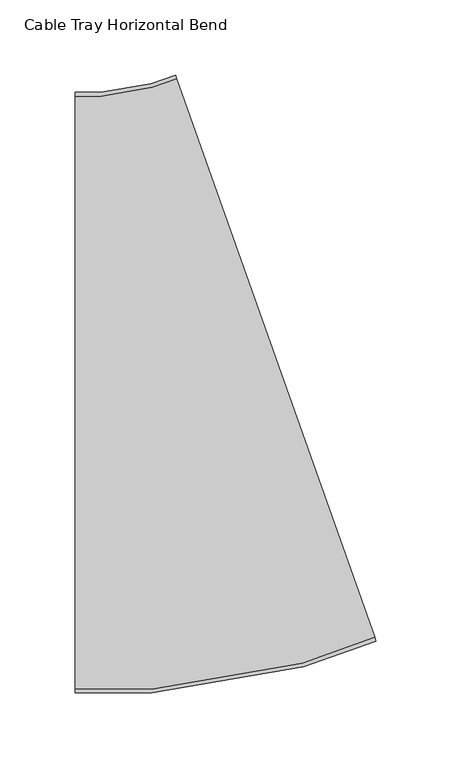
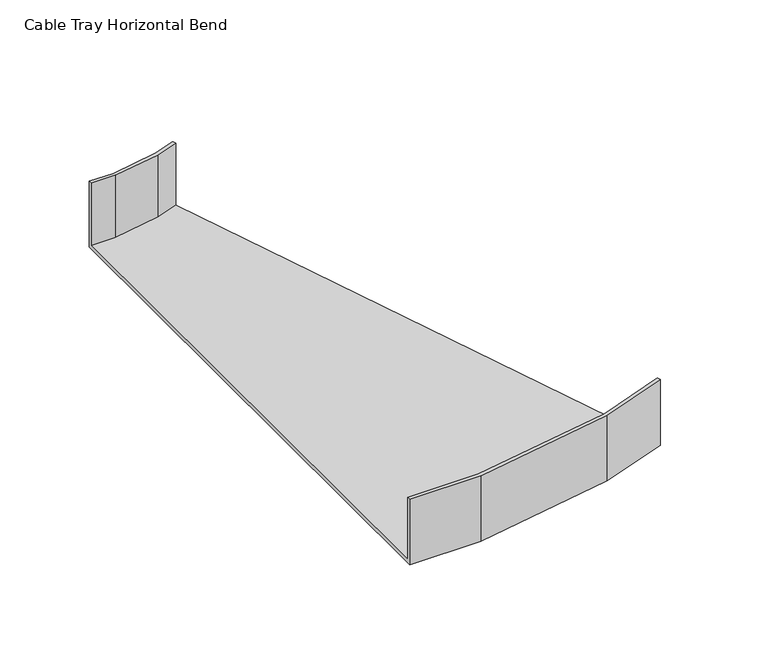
"""IFC4 building model written with IfcOpenShell, lengths in millimetres: cable carrier fitting geometry, Cable Tray Horizontal Bend : ELEC_SUB_CT_N2402."""

import ifcopenshell
import ifcopenshell.guid

model = None  # the IFC model being written
_history = None  # IfcOwnerHistory: only IFC2X3 demands one
_inside = {}  # id of a spatial element -> (the spatial element, [elements in it])
_under = {}  # id of a project, library or spatial element -> (it, [spatial elements below it])
_declared = {}  # id of a project -> (the project, [libraries it declares])
_typed = {}  # id of a type object -> (the type object, [elements of that type])
_made_of = {}  # id of a material, layer set ... -> (it, [elements and type objects made of it])


def new_model(schema):
    """Start an empty IFC model of exactly this schema.

    Asked for "IFC4X3", IfcOpenShell would pick the latest addendum, in which some entities
    have other attributes; the version numbers below select the first issue.
    IFC2X3 requires an IfcOwnerHistory on every rooted entity: one is made here for all.
    """
    global model, _history
    if schema == "IFC4X3":
        model = ifcopenshell.file(schema_version=(4, 3, 0, 0))
    else:
        model = ifcopenshell.file(schema=schema)
    _inside.clear()
    _under.clear()
    _declared.clear()
    _typed.clear()
    _made_of.clear()
    _history = None
    if model.schema == "IFC2X3":
        org = make("IfcOrganization", Name="unknown")
        user = make(
            "IfcPersonAndOrganization",
            ThePerson=make("IfcPerson", FamilyName="unknown"),
            TheOrganization=org,
        )
        app = make(
            "IfcApplication",
            ApplicationDeveloper=org,
            Version="unknown",
            ApplicationFullName="unknown",
            ApplicationIdentifier="unknown",
        )
        _history = make(
            "IfcOwnerHistory",
            OwningUser=user,
            OwningApplication=app,
            ChangeAction="ADDED",
            CreationDate=0,
        )
    return model


def make(cls, **values):
    """One entity of the class cls with the attributes given. An attribute that is None is left unset."""
    return model.create_entity(
        cls, **{name: value for name, value in values.items() if value is not None}
    )


def rooted(cls, **values):
    """An entity with a GlobalId (a new one), such as an element, a storey or a relation."""
    return make(cls, GlobalId=ifcopenshell.guid.new(), OwnerHistory=_history, **values)


def si_unit(unit_type, name, prefix=None):
    """IfcSIUnit, for example si_unit("LENGTHUNIT", "METRE", prefix="MILLI")."""
    return make("IfcSIUnit", UnitType=unit_type, Prefix=prefix, Name=name)


def assignment(units):
    """IfcUnitAssignment: the units of a project."""
    return None if units is None else make("IfcUnitAssignment", Units=units)


def point(xyz):
    """IfcCartesianPoint."""
    return None if xyz is None else make("IfcCartesianPoint", Coordinates=xyz)


def direction(xyz):
    """IfcDirection."""
    return None if xyz is None else make("IfcDirection", DirectionRatios=xyz)


def frame(location, z_axis=None, x_axis=None):
    """IfcAxis2Placement3D, a coordinate frame: its origin and axes. An axis left out is left unset."""
    return make(
        "IfcAxis2Placement3D",
        Location=point(location),
        Axis=direction(z_axis),
        RefDirection=direction(x_axis),
    )


def origin():
    """The frame at (0, 0, 0) with its axes left unset."""
    return frame((0.0, 0.0, 0.0))


def place(relative_to, where):
    """IfcLocalPlacement: puts the frame where relative to a parent placement (None: the world)."""
    return make(
        "IfcLocalPlacement", PlacementRelTo=relative_to, RelativePlacement=where
    )


def context(
    kind, dimensions, precision=None, world=None, true_north=None, identifier=None
):
    """IfcGeometricRepresentationContext, for example the 3D "Model" context."""
    return make(
        "IfcGeometricRepresentationContext",
        ContextIdentifier=identifier,
        ContextType=kind,
        CoordinateSpaceDimension=dimensions,
        Precision=precision,
        WorldCoordinateSystem=world,
        TrueNorth=true_north,
    )


def project(units=None, contexts=None):
    """IfcProject with its units and contexts."""
    return rooted(
        "IfcProject",
        Name="project",
        RepresentationContexts=contexts,
        UnitsInContext=assignment(units),
    )


def spatial(cls, under=None, at=None, **own):
    """A site, building, storey or space (cls), placed at a placement, below another one or the project."""
    s = rooted(cls, ObjectPlacement=at, **own)
    if under is not None:
        _under.setdefault(under.id(), (under, []))[1].append(s)
    return s


def faces_of(points, faces, orient=None, outer=None):
    """IfcFace entities. A face is a list of loops; a loop is a list of indices into points, from 0.

    orient and outer hold one flag for each loop. By default every Orientation is true, the
    first loop of a face is its IfcFaceOuterBound and the others are IfcFaceBound.
    """
    made = []
    for i, loops in enumerate(faces):
        bounds = []
        for j, loop in enumerate(loops):
            is_outer = j == 0 if outer is None else outer[i][j]
            bounds.append(
                make(
                    "IfcFaceOuterBound" if is_outer else "IfcFaceBound",
                    Bound=make("IfcPolyLoop", Polygon=[points[k] for k in loop]),
                    Orientation=True if orient is None else orient[i][j],
                )
            )
        made.append(make("IfcFace", Bounds=bounds))
    return made


def faceted_brep(points, faces, orient=None, outer=None, voids=None):
    """IfcFacetedBrep: a solid bounded by flat faces; with voids (closed shells), ...WithVoids."""
    shared = [point(p) for p in points]
    hull = make("IfcClosedShell", CfsFaces=faces_of(shared, faces, orient, outer))
    if voids is None:
        return make("IfcFacetedBrep", Outer=hull)
    return make(
        "IfcFacetedBrepWithVoids",
        Outer=hull,
        Voids=[
            make(cls, CfsFaces=faces_of(shared, fs, o, b)) for cls, fs, o, b in voids
        ],
    )


def shape(context_of_items, identifier, shape_type, items):
    """IfcShapeRepresentation: the items that make up one representation, for example the "Body"."""
    return make(
        "IfcShapeRepresentation",
        ContextOfItems=context_of_items,
        RepresentationIdentifier=identifier,
        RepresentationType=shape_type,
        Items=items,
    )


def source(mapping_origin, context_of_items, identifier, shape_type, items):
    """IfcRepresentationMap: a shape defined once, which mapped items show again and again."""
    return make(
        "IfcRepresentationMap",
        MappingOrigin=mapping_origin,
        MappedRepresentation=shape(context_of_items, identifier, shape_type, items),
    )


def transform(
    local_origin,
    x_axis=None,
    y_axis=None,
    z_axis=None,
    scale=None,
    scale2=None,
    scale3=None,
    uniform=True,
):
    """IfcCartesianTransformationOperator3D, or its non-uniform kind. x_axis, y_axis, z_axis: its Axis1, 2, 3."""
    if uniform:
        return make(
            "IfcCartesianTransformationOperator3D",
            Axis1=direction(x_axis),
            Axis2=direction(y_axis),
            LocalOrigin=point(local_origin),
            Scale=scale,
            Axis3=direction(z_axis),
        )
    return make(
        "IfcCartesianTransformationOperator3DnonUniform",
        Axis1=direction(x_axis),
        Axis2=direction(y_axis),
        LocalOrigin=point(local_origin),
        Scale=scale,
        Axis3=direction(z_axis),
        Scale2=scale2,
        Scale3=scale3,
    )


def mapped(mapping_source, mapping_target):
    """IfcMappedItem: shows the shape of a source again, moved by a transform."""
    return make(
        "IfcMappedItem", MappingSource=mapping_source, MappingTarget=mapping_target
    )


def made_of(thing, what):
    """Note that an element or type object is made of a material, layer set ...; save() writes the relation."""
    if what is not None:
        _made_of.setdefault(what.id(), (what, []))[1].append(thing)
    return thing


def element(
    cls,
    number,
    at=None,
    inside=None,
    cuts=None,
    type_object=None,
    material=None,
    context=None,
    identifier="Body",
    shape_type=None,
    held_by="IfcProductDefinitionShape",
    body=None,
    shapes=None,
    **own,
):
    """One element of the class cls, such as IfcWall. Its Tag is "e" and its number.

    at: its placement. inside: the storey or other place that contains it. cuts: it is an
    opening in that element (IfcRelVoidsElement). A single representation is given by context,
    identifier, shape_type and body (its items); several are given by shapes. held_by: the class
    of the entity that holds the representations. save() writes the other relations.
    """
    e = rooted(cls, Tag="e%d" % number, ObjectPlacement=at, **own)
    if body is not None:
        shapes = [shape(context, identifier, shape_type, body)]
    if shapes is not None:
        e.Representation = make(held_by, Representations=shapes)
    if inside is not None:
        _inside.setdefault(inside.id(), (inside, []))[1].append(e)
    if cuts is not None:
        rooted(
            "IfcRelVoidsElement", RelatingBuildingElement=cuts, RelatedOpeningElement=e
        )
    if type_object is not None:
        _typed.setdefault(type_object.id(), (type_object, []))[1].append(e)
    return made_of(e, material)


def aggregate(whole, parts):
    """IfcRelAggregates: a whole, such as a stair, and the parts it consists of."""
    return rooted("IfcRelAggregates", RelatingObject=whole, RelatedObjects=parts)


def save(model, path):
    """Write the relations noted so far, then the file.

    IfcRelAggregates (storeys below a building ...), IfcRelContainedInSpatialStructure (elements
    in a storey), IfcRelDefinesByType, IfcRelAssociatesMaterial and IfcRelDeclares: one each for
    every whole, place, type object, material and project.
    """
    for whole, parts in _under.values():
        aggregate(whole, parts)
    for where, things in _inside.values():
        rooted(
            "IfcRelContainedInSpatialStructure",
            RelatedElements=things,
            RelatingStructure=where,
        )
    for kind, things in _typed.values():
        rooted("IfcRelDefinesByType", RelatedObjects=things, RelatingType=kind)
    for what, things in _made_of.values():
        rooted("IfcRelAssociatesMaterial", RelatedObjects=things, RelatingMaterial=what)
    for by, libraries in _declared.values():
        rooted("IfcRelDeclares", RelatingContext=by, RelatedDefinitions=libraries)
    model.write(path)


def cable_tray_horizontal_bend_86dabf7d(model_context):
    return source(origin(), model_context, "Body", "Brep", [
        faceted_brep([(-68.8852046, -200.0, -25.0), (-68.8852046, -200.0, 25.0), (-68.8852046, -197.46, 25.0), (-68.8852046, -197.46, -22.46), (-68.8852046, 197.46, -22.46), (-68.8852046, 197.46, 25.0), (-68.8852046, 200.0, 25.0), (-68.8852046, 200.0, -25.0), (131.8180872, -165.4362817, -25.0), (-1.9841073, 211.5212394, -25.0), (-1.9841073, 211.5212394, 25.0), (-1.1344634, 209.1275592, 25.0), (-1.1344634, 209.1275592, -22.46), (130.9684432, -163.0426015, -22.46), (130.9684432, -163.0426015, 25.0), (131.8180872, -165.4362817, 25.0), (-17.5987774, -200.0, -25.0), (-17.5987774, -200.0, 25.0), (83.486076, -182.591873, 25.0), (82.8410376, -180.1255674, 25.0), (-17.8158899, -197.46, 25.0), (-17.8158899, -197.46, -22.46), (82.8410376, -180.1255674, -22.46), (-17.4497393, 203.3364034, -22.46), (-51.5726163, 197.46, -22.46), (-51.5726163, 197.46, 25.0), (-17.4497393, 203.3364034, 25.0), (-18.0947777, 205.802709, 25.0), (-51.7897289, 200.0, 25.0), (-51.7897289, 200.0, -25.0), (-18.0947777, 205.802709, -25.0), (83.486076, -182.591873, -25.0)], [[[0, 1, 2, 3, 4, 5, 6, 7]], [[8, 9, 10, 11, 12, 13, 14, 15]], [[1, 0, 16, 17]], [[2, 1, 17, 18, 15, 14, 19, 20]], [[3, 2, 20, 21]], [[4, 3, 21, 22, 13, 12, 23, 24]], [[5, 4, 24, 25]], [[6, 5, 25, 26, 11, 10, 27, 28]], [[7, 6, 28, 29]], [[0, 7, 29, 30, 9, 8, 31, 16]], [[17, 16, 31, 18]], [[21, 20, 19, 22]], [[25, 24, 23, 26]], [[29, 28, 27, 30]], [[18, 31, 8, 15]], [[22, 19, 14, 13]], [[26, 23, 12, 11]], [[30, 27, 10, 9]]]),
    ])


if __name__ == "__main__":
    model = new_model("IFC4")
    model_context = context("Model", 3, world=origin())
    ifc_project = project(units=[si_unit("LENGTHUNIT", "METRE", prefix="MILLI")], contexts=[model_context])
    site = spatial("IfcSite", under=ifc_project)
    building = spatial("IfcBuilding", under=site)
    placement = place(None, origin())
    cable_tray_horizontal_bend_shape = cable_tray_horizontal_bend_86dabf7d(model_context)
    element("IfcCableCarrierFitting", 1, ObjectType="Cable Tray Horizontal Bend : ELEC_SUB_CT_N2402", at=placement, inside=building, context=model_context, shape_type="MappedRepresentation", body=[
        mapped(cable_tray_horizontal_bend_shape, transform((0.0, 0.0, 0.0), x_axis=(1.0, 0.0, 0.0), y_axis=(0.0, 1.0, 0.0), z_axis=(0.0, 0.0, 1.0))),
    ])
    save(model, "model.ifc")
